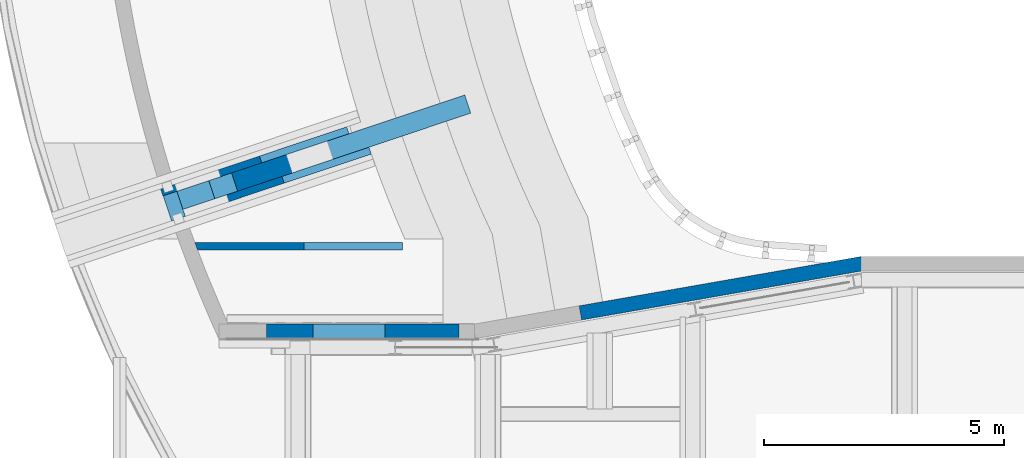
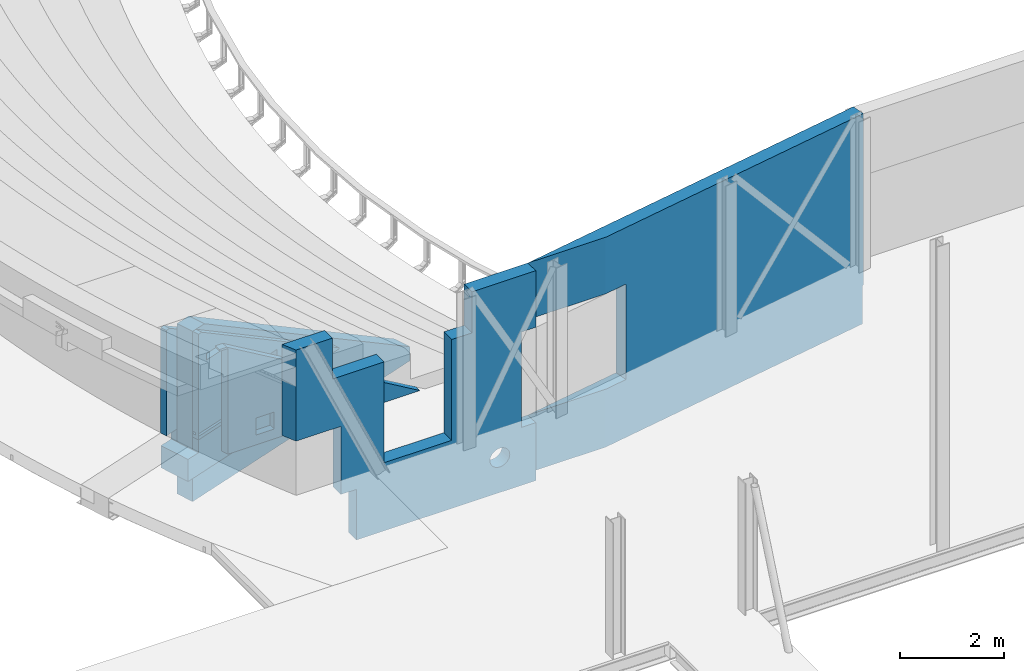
# One storey, part 65 of 68: 7 walls.
"""IFC2X3 building model written with IfcOpenShell, lengths in millimetres."""

import ifcopenshell
import ifcopenshell.guid

model = None  # the IFC model being written
_history = None  # IfcOwnerHistory: only IFC2X3 demands one
_inside = {}  # id of a spatial element -> (the spatial element, [elements in it])
_under = {}  # id of a project, library or spatial element -> (it, [spatial elements below it])
_declared = {}  # id of a project -> (the project, [libraries it declares])
_typed = {}  # id of a type object -> (the type object, [elements of that type])
_made_of = {}  # id of a material, layer set ... -> (it, [elements and type objects made of it])


def new_model(schema):
    """Start an empty IFC model of exactly this schema.

    Asked for "IFC4X3", IfcOpenShell would pick the latest addendum, in which some entities
    have other attributes; the version numbers below select the first issue.
    IFC2X3 requires an IfcOwnerHistory on every rooted entity: one is made here for all.
    """
    global model, _history
    if schema == "IFC4X3":
        model = ifcopenshell.file(schema_version=(4, 3, 0, 0))
    else:
        model = ifcopenshell.file(schema=schema)
    _inside.clear()
    _under.clear()
    _declared.clear()
    _typed.clear()
    _made_of.clear()
    _history = None
    if model.schema == "IFC2X3":
        org = make("IfcOrganization", Name="unknown")
        user = make(
            "IfcPersonAndOrganization",
            ThePerson=make("IfcPerson", FamilyName="unknown"),
            TheOrganization=org,
        )
        app = make(
            "IfcApplication",
            ApplicationDeveloper=org,
            Version="unknown",
            ApplicationFullName="unknown",
            ApplicationIdentifier="unknown",
        )
        _history = make(
            "IfcOwnerHistory",
            OwningUser=user,
            OwningApplication=app,
            ChangeAction="ADDED",
            CreationDate=0,
        )
    return model


def make(cls, **values):
    """One entity of the class cls with the attributes given. An attribute that is None is left unset."""
    return model.create_entity(
        cls, **{name: value for name, value in values.items() if value is not None}
    )


def entity(cls, *values):
    """Any entity or typed value of the class cls, its attributes in the order of the schema. None: left unset."""
    e = model.create_entity(cls)
    for i, value in enumerate(values):
        if value is not None:
            e[i] = value
    return e


def rooted(cls, **values):
    """An entity with a GlobalId (a new one), such as an element, a storey or a relation."""
    return make(cls, GlobalId=ifcopenshell.guid.new(), OwnerHistory=_history, **values)


def si_unit(unit_type, name, prefix=None):
    """IfcSIUnit, for example si_unit("LENGTHUNIT", "METRE", prefix="MILLI")."""
    return make("IfcSIUnit", UnitType=unit_type, Prefix=prefix, Name=name)


def converted_unit(unit_type, name, factor, base, dimensions=None, offset=None):
    """IfcConversionBasedUnit, such as the inch: factor (a typed value) times the base unit."""
    return make(
        "IfcConversionBasedUnit"
        if offset is None
        else "IfcConversionBasedUnitWithOffset",
        ConversionOffset=offset,
        Dimensions=None
        if dimensions is None
        else entity("IfcDimensionalExponents", *dimensions),
        UnitType=unit_type,
        Name=name,
        ConversionFactor=make(
            "IfcMeasureWithUnit", ValueComponent=factor, UnitComponent=base
        ),
    )


def derived_unit(unit_type, elements):
    """IfcDerivedUnit: a product of units, each with its exponent."""
    return make(
        "IfcDerivedUnit",
        Elements=[
            make("IfcDerivedUnitElement", Unit=unit, Exponent=power)
            for unit, power in elements
        ],
        UnitType=unit_type,
    )


def assignment(units):
    """IfcUnitAssignment: the units of a project."""
    return None if units is None else make("IfcUnitAssignment", Units=units)


def point(xyz):
    """IfcCartesianPoint."""
    return None if xyz is None else make("IfcCartesianPoint", Coordinates=xyz)


def direction(xyz):
    """IfcDirection."""
    return None if xyz is None else make("IfcDirection", DirectionRatios=xyz)


def frame(location, z_axis=None, x_axis=None):
    """IfcAxis2Placement3D, a coordinate frame: its origin and axes. An axis left out is left unset."""
    return make(
        "IfcAxis2Placement3D",
        Location=point(location),
        Axis=direction(z_axis),
        RefDirection=direction(x_axis),
    )


def origin():
    """The frame at (0, 0, 0) with its axes left unset."""
    return frame((0.0, 0.0, 0.0))


def place(relative_to, where):
    """IfcLocalPlacement: puts the frame where relative to a parent placement (None: the world)."""
    return make(
        "IfcLocalPlacement", PlacementRelTo=relative_to, RelativePlacement=where
    )


def context(
    kind, dimensions, precision=None, world=None, true_north=None, identifier=None
):
    """IfcGeometricRepresentationContext, for example the 3D "Model" context."""
    return make(
        "IfcGeometricRepresentationContext",
        ContextIdentifier=identifier,
        ContextType=kind,
        CoordinateSpaceDimension=dimensions,
        Precision=precision,
        WorldCoordinateSystem=world,
        TrueNorth=true_north,
    )


def subcontext(parent, identifier, kind, view, scale=None):
    """IfcGeometricRepresentationSubContext, for example "Body" below "Model"."""
    return make(
        "IfcGeometricRepresentationSubContext",
        ContextIdentifier=identifier,
        ContextType=kind,
        ParentContext=parent,
        TargetScale=scale,
        TargetView=view,
    )


def project(units=None, contexts=None):
    """IfcProject with its units and contexts."""
    return rooted(
        "IfcProject",
        Name="project",
        RepresentationContexts=contexts,
        UnitsInContext=assignment(units),
    )


def spatial(cls, under=None, at=None, **own):
    """A site, building, storey or space (cls), placed at a placement, below another one or the project."""
    s = rooted(cls, ObjectPlacement=at, **own)
    if under is not None:
        _under.setdefault(under.id(), (under, []))[1].append(s)
    return s


def faces_of(points, faces, orient=None, outer=None):
    """IfcFace entities. A face is a list of loops; a loop is a list of indices into points, from 0.

    orient and outer hold one flag for each loop. By default every Orientation is true, the
    first loop of a face is its IfcFaceOuterBound and the others are IfcFaceBound.
    """
    made = []
    for i, loops in enumerate(faces):
        bounds = []
        for j, loop in enumerate(loops):
            is_outer = j == 0 if outer is None else outer[i][j]
            bounds.append(
                make(
                    "IfcFaceOuterBound" if is_outer else "IfcFaceBound",
                    Bound=make("IfcPolyLoop", Polygon=[points[k] for k in loop]),
                    Orientation=True if orient is None else orient[i][j],
                )
            )
        made.append(make("IfcFace", Bounds=bounds))
    return made


def faceted_brep(points, faces, orient=None, outer=None, voids=None):
    """IfcFacetedBrep: a solid bounded by flat faces; with voids (closed shells), ...WithVoids."""
    shared = [point(p) for p in points]
    hull = make("IfcClosedShell", CfsFaces=faces_of(shared, faces, orient, outer))
    if voids is None:
        return make("IfcFacetedBrep", Outer=hull)
    return make(
        "IfcFacetedBrepWithVoids",
        Outer=hull,
        Voids=[
            make(cls, CfsFaces=faces_of(shared, fs, o, b)) for cls, fs, o, b in voids
        ],
    )


def shape(context_of_items, identifier, shape_type, items):
    """IfcShapeRepresentation: the items that make up one representation, for example the "Body"."""
    return make(
        "IfcShapeRepresentation",
        ContextOfItems=context_of_items,
        RepresentationIdentifier=identifier,
        RepresentationType=shape_type,
        Items=items,
    )


def material(Name=None, Category=None):
    """IfcMaterial."""
    return make("IfcMaterial", Name=Name, Category=Category)


def layer(
    of_material, thickness, ventilated=None, Name=None, Category=None, Priority=None
):
    """IfcMaterialLayer: one layer of a wall or slab, of a material (None: an air gap)."""
    return make(
        "IfcMaterialLayer",
        Material=of_material,
        LayerThickness=thickness,
        IsVentilated=ventilated,
        Name=Name,
        Category=Category,
        Priority=Priority,
    )


def layer_set(layers, Name=None):
    """IfcMaterialLayerSet."""
    return make("IfcMaterialLayerSet", MaterialLayers=layers, LayerSetName=Name)


def made_of(thing, what):
    """Note that an element or type object is made of a material, layer set ...; save() writes the relation."""
    if what is not None:
        _made_of.setdefault(what.id(), (what, []))[1].append(thing)
    return thing


def type_object(cls, material=None, **own):
    """A type object (cls), such as IfcWallType, which elements share."""
    return made_of(rooted(cls, **own), material)


def element(
    cls,
    number,
    at=None,
    inside=None,
    cuts=None,
    type_object=None,
    material=None,
    context=None,
    identifier="Body",
    shape_type=None,
    held_by="IfcProductDefinitionShape",
    body=None,
    shapes=None,
    **own,
):
    """One element of the class cls, such as IfcWall. Its Tag is "e" and its number.

    at: its placement. inside: the storey or other place that contains it. cuts: it is an
    opening in that element (IfcRelVoidsElement). A single representation is given by context,
    identifier, shape_type and body (its items); several are given by shapes. held_by: the class
    of the entity that holds the representations. save() writes the other relations.
    """
    e = rooted(cls, Tag="e%d" % number, ObjectPlacement=at, **own)
    if body is not None:
        shapes = [shape(context, identifier, shape_type, body)]
    if shapes is not None:
        e.Representation = make(held_by, Representations=shapes)
    if inside is not None:
        _inside.setdefault(inside.id(), (inside, []))[1].append(e)
    if cuts is not None:
        rooted(
            "IfcRelVoidsElement", RelatingBuildingElement=cuts, RelatedOpeningElement=e
        )
    if type_object is not None:
        _typed.setdefault(type_object.id(), (type_object, []))[1].append(e)
    return made_of(e, material)


def aggregate(whole, parts):
    """IfcRelAggregates: a whole, such as a stair, and the parts it consists of."""
    return rooted("IfcRelAggregates", RelatingObject=whole, RelatedObjects=parts)


def save(model, path):
    """Write the relations noted so far, then the file.

    IfcRelAggregates (storeys below a building ...), IfcRelContainedInSpatialStructure (elements
    in a storey), IfcRelDefinesByType, IfcRelAssociatesMaterial and IfcRelDeclares: one each for
    every whole, place, type object, material and project.
    """
    for whole, parts in _under.values():
        aggregate(whole, parts)
    for where, things in _inside.values():
        rooted(
            "IfcRelContainedInSpatialStructure",
            RelatedElements=things,
            RelatingStructure=where,
        )
    for kind, things in _typed.values():
        rooted("IfcRelDefinesByType", RelatedObjects=things, RelatingType=kind)
    for what, things in _made_of.values():
        rooted("IfcRelAssociatesMaterial", RelatedObjects=things, RelatingMaterial=what)
    for by, libraries in _declared.values():
        rooted("IfcRelDeclares", RelatingContext=by, RelatedDefinitions=libraries)
    model.write(path)


model = new_model("IFC2X3")

# Units and contexts
model_context = context("Model", 3, precision=0.01, world=origin(), true_north=direction((6.12303176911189e-17, 1.0)))
body_context = subcontext(model_context, "Body", "Model", "MODEL_VIEW")
ifc_project = project(units=[si_unit("LENGTHUNIT", "METRE", prefix="MILLI"), si_unit("AREAUNIT", "SQUARE_METRE", prefix="MILLI"), si_unit("VOLUMEUNIT", "CUBIC_METRE"), converted_unit("PLANEANGLEUNIT", "DEGREE", entity("IfcRatioMeasure", 0.0174532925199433), si_unit("PLANEANGLEUNIT", "RADIAN"), dimensions=[0, 0, 0, 0, 0, 0, 0]), si_unit("MASSUNIT", "GRAM", prefix="KILO"), derived_unit("MASSDENSITYUNIT", [(si_unit("MASSUNIT", "GRAM", prefix="KILO"), 1), (si_unit("LENGTHUNIT", "METRE"), -3)]), derived_unit("MOMENTOFINERTIAUNIT", [(si_unit("LENGTHUNIT", "METRE"), 4)]), si_unit("TIMEUNIT", "SECOND"), si_unit("FREQUENCYUNIT", "HERTZ"), si_unit("THERMODYNAMICTEMPERATUREUNIT", "DEGREE_CELSIUS"), derived_unit("THERMALTRANSMITTANCEUNIT", [(si_unit("MASSUNIT", "GRAM", prefix="KILO"), 1), (si_unit("THERMODYNAMICTEMPERATUREUNIT", "KELVIN"), -1), (si_unit("TIMEUNIT", "SECOND"), -3)]), derived_unit("VOLUMETRICFLOWRATEUNIT", [(si_unit("LENGTHUNIT", "METRE"), 3), (si_unit("TIMEUNIT", "SECOND"), -1)]), si_unit("ELECTRICCURRENTUNIT", "AMPERE"), si_unit("ELECTRICVOLTAGEUNIT", "VOLT"), si_unit("POWERUNIT", "WATT"), si_unit("FORCEUNIT", "NEWTON", prefix="KILO"), si_unit("ILLUMINANCEUNIT", "LUX"), si_unit("LUMINOUSFLUXUNIT", "LUMEN"), si_unit("LUMINOUSINTENSITYUNIT", "CANDELA"), derived_unit("USERDEFINED", [(si_unit("MASSUNIT", "GRAM", prefix="KILO"), -1), (si_unit("LENGTHUNIT", "METRE"), -2), (si_unit("TIMEUNIT", "SECOND"), 3), (si_unit("LUMINOUSFLUXUNIT", "LUMEN"), 1)]), derived_unit("LINEARVELOCITYUNIT", [(si_unit("LENGTHUNIT", "METRE"), 1), (si_unit("TIMEUNIT", "SECOND"), -1)]), si_unit("PRESSUREUNIT", "PASCAL"), derived_unit("USERDEFINED", [(si_unit("LENGTHUNIT", "METRE"), -2), (si_unit("MASSUNIT", "GRAM", prefix="KILO"), 1), (si_unit("TIMEUNIT", "SECOND"), -2)]), derived_unit("LINEARFORCEUNIT", [(si_unit("MASSUNIT", "GRAM", prefix="KILO"), 1), (si_unit("LENGTHUNIT", "METRE"), 1), (si_unit("TIMEUNIT", "SECOND"), -2), (si_unit("LENGTHUNIT", "METRE"), -1)]), derived_unit("PLANARFORCEUNIT", [(si_unit("MASSUNIT", "GRAM", prefix="KILO"), 1), (si_unit("LENGTHUNIT", "METRE"), 1), (si_unit("TIMEUNIT", "SECOND"), -2), (si_unit("LENGTHUNIT", "METRE"), -2)])], contexts=[model_context])

# Site, building, storey
site_placement = place(None, origin())
site = spatial("IfcSite", under=ifc_project, at=site_placement, Name="Theater aan de Parade", CompositionType="ELEMENT")
building_placement = place(site_placement, origin())
building = spatial("IfcBuilding", under=site, at=building_placement, Name="Theater aan de Parade", CompositionType="ELEMENT")
storey_placement = place(building_placement, frame((0.0, 0.0, 8750.0)))
storey = spatial("IfcBuildingStorey", under=building, at=storey_placement, Name="02 tweede verdieping", CompositionType="ELEMENT", Elevation=8750.0)

# Walls
ifc_material_1 = material(Name="00_PBT_MAT_beton t.p.g.")
ifc_layer_1 = layer(ifc_material_1, 300.0)
ifc_layer_set_1 = layer_set([ifc_layer_1], Name="Basic Wall:28_PBT_WA_beton t.p.g._d=300_bestaand")
wall_type_1 = type_object("IfcWallType", Name="Basic Wall:28_PBT_WA_beton t.p.g._d=300_bestaand", PredefinedType="STANDARD", material=ifc_layer_set_1)
wall_1_placement = place(storey_placement, frame((51610.1427640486, 20782.2454299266, -1600.0), z_axis=(0.0, 0.0, 1.0), x_axis=(0.985030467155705, 0.172380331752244, 0.0)))
element("IfcWall", 1, at=wall_1_placement, inside=storey, type_object=wall_type_1, Name="Basic Wall:28_PBT_WA_beton t.p.g._d=300_bestaand", ObjectType="Basic Wall:28_PBT_WA_beton t.p.g._d=300_bestaand", context=body_context, shape_type="Brep", body=[
    faceted_brep([(8179.58746028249, -150.0, 4930.0), (8153.53541706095, -150.0, 4930.0), (1714.28571428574, -150.0, 4930.0), (1714.28571428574, -150.0, 3600.0), (2222.77596071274, -150.0, 3600.0), (2222.77596071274, -150.0, 1360.0), (1714.28571428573, -150.0, 1360.0), (1714.28571428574, -150.0, 160.0), (1714.28571428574, -150.0, 0.0), (8153.53541706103, -150.0, 0.0), (8153.53541706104, -150.0, 900.0), (8179.58746028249, -150.0, 900.0), (8179.58746028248, 150.0, 0.0), (1849.7719874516, 150.0, 0.0), (1536.57900972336, 150.0, 0.0), (1315.0506723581, 150.0, 0.0), (1258.39159230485, 150.0, 0.0), (0.0, 150.0, 0.0), (0.0, 150.0, 736.803285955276), (0.0, 150.0, 889.609411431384), (0.0, 150.0, 1360.0), (121.551589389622, 150.0, 1360.0), (698.175827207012, 150.0, 1360.0), (2222.77596071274, 150.0, 1360.0), (2222.77596071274, 150.0, 3600.0), (0.0, 150.0, 3600.0), (0.0, 150.0, 4930.0), (8179.58746028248, 150.0, 4930.0), (8179.58746028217, 150.0, 900.0), (8127.87336075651, -145.509140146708, 0.0), (8127.87336075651, -145.509140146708, 900.0), (1490.9195970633, -110.910929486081, 0.0), (1275.97396954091, -73.2954446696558, 0.0), (1258.39159230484, -70.2185286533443, 0.0), (12.8310281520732, 147.754570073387, 0.0), (12.8310281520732, 147.754570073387, 4930.0), (235.230897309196, 108.834592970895, 4930.0), (12.8310281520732, 147.754570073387, 3600.0), (12.8310281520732, 147.754570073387, 1360.0), (117.93968649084, 129.360554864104, 1360.0), (698.175827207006, 27.8192302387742, 1360.0)], [[[0, 1, 2, 3, 4, 5, 6, 7, 8, 9, 10, 11]], [[12, 13, 14, 15, 16, 17, 18, 19, 20, 21, 22, 23, 24, 25, 26, 27, 28]], [[29, 30, 10, 9]], [[17, 16, 15, 14, 13, 12, 29, 9, 8, 31, 32, 33, 34]], [[27, 0, 11, 28]], [[2, 1, 0, 27, 26, 35, 36]], [[4, 3, 37, 25, 24]], [[5, 4, 24, 23]], [[6, 5, 23, 22, 21, 20, 38, 39, 40]], [[3, 2, 36, 35, 26, 25, 37]], [[6, 40, 39, 38, 20, 19, 18, 17, 34, 33, 32, 31, 8, 7]], [[30, 28, 11, 10]], [[28, 30, 29, 12]]]),
])
wall_2_placement = place(storey_placement, frame((46137.3642218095, 20780.0, -1600.0)))
element("IfcWall", 2, at=wall_2_placement, inside=storey, type_object=wall_type_1, Name="Basic Wall:28_PBT_WA_beton t.p.g._d=300_bestaand", ObjectType="Basic Wall:28_PBT_WA_beton t.p.g._d=300_bestaand", context=body_context, shape_type="Brep", body=[
    faceted_brep([(1473.62241248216, -150.0, 1190.0), (1473.62241248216, -150.0, 0.0), (2092.67103672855, -150.0, 1600.0), (1131.11013754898, -150.0, 2790.0), (1131.11013754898, -150.0, 1190.0), (3592.67103673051, -150.0, 1600.0), (4464.73002916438, -150.0, 724.845577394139), (4490.94025395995, -150.0, 683.13224359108), (4525.77542369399, -150.0, 648.297073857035), (4567.48875749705, -150.0, 622.086849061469), (5459.94751408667, -150.0, 0.0), (4613.98857463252, -150.0, 605.81585932), (4662.94318010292, -150.0, 600.300000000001), (4711.89778557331, -150.0, 605.81585932), (4758.39760270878, -150.0, 622.08684906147), (4800.11093651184, -150.0, 648.297073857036), (4834.94610624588, -150.0, 683.132243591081), (5459.94751408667, -150.0, 729.394088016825), (4861.15633104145, -150.0, 724.845577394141), (4877.42732078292, -150.0, 771.345394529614), (4882.94318010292, -150.0, 820.300000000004), (5459.94751408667, -150.0, 912.462620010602), (4877.42732078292, -150.0, 869.254605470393), (4861.15633104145, -150.0, 915.754422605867), (5137.63577819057, -150.0, 1360.0), (5459.94751408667, -150.0, 1360.0), (4613.98857463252, -150.0, 1034.78414068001), (4662.94318010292, -150.0, 1040.30000000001), (4711.89778557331, -150.0, 1034.78414068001), (4758.39760270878, -150.0, 1018.51315093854), (4800.11093651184, -150.0, 992.302926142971), (4834.94610624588, -150.0, 957.467756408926), (5137.63577819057, -150.0, 3600.0), (4042.67103673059, -150.0, 3967.0), (5459.94751408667, -150.0, 4730.0), (5459.94751408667, -150.0, 3600.0), (4042.67103673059, -150.0, 4730.0), (4042.67103673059, -150.0, 4930.0), (5459.94751408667, -150.0, 4930.0), (3592.67103673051, -150.0, 3967.0), (4448.45903942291, -150.0, 771.345394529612), (4442.94318010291, -150.0, 820.300000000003), (4448.45903942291, -150.0, 869.254605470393), (4464.73002916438, -150.0, 915.754422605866), (4490.94025395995, -150.0, 957.467756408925), (4525.77542369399, -150.0, 992.302926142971), (4567.48875749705, -150.0, 1018.51315093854), (2092.67103672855, -150.0, 3967.0), (942.671036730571, -150.0, 3967.0), (134.367271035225, -150.0, 2790.0), (134.367271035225, -150.0, 4070.0), (134.367271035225, -150.0, 4260.0), (942.671036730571, -150.0, 4530.0), (134.367271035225, -150.0, 4530.0), (942.671036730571, -150.0, 4740.0), (134.367271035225, -150.0, 4740.0), (885.727199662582, -150.0, 4930.0), (942.671036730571, -150.0, 4930.0), (134.367271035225, -150.0, 4860.0), (134.367271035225, -150.0, 4930.0), (5459.94751408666, 150.0, 0.0), (5446.92149247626, 150.0, 0.0), (5459.94751408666, 150.0, 729.39408801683), (4834.94610624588, 150.0, 683.132243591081), (4800.11093651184, 150.0, 648.297073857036), (4758.39760270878, 150.0, 622.08684906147), (4711.89778557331, 150.0, 605.81585932), (4662.94318010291, 150.0, 600.300000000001), (4613.98857463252, 150.0, 605.81585932), (4567.48875749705, 150.0, 622.086849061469), (1473.62241248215, 150.0, 0.0), (4525.77542369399, 150.0, 648.297073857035), (4490.94025395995, 150.0, 683.13224359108), (4464.73002916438, 150.0, 724.845577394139), (3592.67103673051, 150.0, 1600.0), (2092.67103672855, 150.0, 1600.0), (1473.62241248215, 150.0, 1190.0), (1131.11013754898, 150.0, 2790.0), (1131.11013754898, 150.0, 1190.0), (2092.67103672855, 150.0, 3967.0), (942.67103673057, 150.0, 3967.0), (134.150097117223, 150.0, 2790.0), (0.0, 150.0, 4000.0), (0.0, 150.0, 2790.0), (0.0, 150.0, 4070.0), (0.0, 150.0, 4260.0), (0.0, 150.0, 4530.0), (942.67103673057, 150.0, 4930.0), (0.0, 150.0, 4740.0), (0.0, 150.0, 4860.0), (0.0, 150.0, 4930.0), (4448.45903942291, 150.0, 771.345394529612), (4442.94318010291, 150.0, 820.300000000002), (4448.45903942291, 150.0, 869.254605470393), (4464.73002916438, 150.0, 915.754422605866), (4490.94025395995, 150.0, 957.467756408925), (4525.77542369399, 150.0, 992.302926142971), (4567.48875749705, 150.0, 1018.51315093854), (4613.98857463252, 150.0, 1034.78414068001), (5137.63577819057, 150.0, 1360.0), (5137.63577819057, 150.0, 3600.0), (4042.67103673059, 150.0, 3967.0), (3592.67103673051, 150.0, 3967.0), (5459.94751408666, 150.0, 4730.0), (4042.67103673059, 150.0, 4930.0), (5446.92149247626, 150.0, 4930.0), (5459.94751408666, 150.0, 4930.0), (5446.92149247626, 150.0, 3600.0), (5459.94751408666, 150.0, 3600.0), (4662.94318010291, 150.0, 1040.30000000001), (4711.89778557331, 150.0, 1034.78414068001), (4758.39760270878, 150.0, 1018.51315093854), (4800.11093651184, 150.0, 992.302926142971), (4834.94610624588, 150.0, 957.467756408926), (4861.15633104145, 150.0, 915.754422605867), (5459.94751408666, 150.0, 882.068079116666), (5446.92149247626, 150.0, 1360.0), (5459.94751408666, 150.0, 1360.0), (4882.94318010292, 150.0, 820.300000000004), (4877.42732078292, 150.0, 869.254605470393), (4861.15633104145, 150.0, 724.845577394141), (4877.42732078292, 150.0, 771.345394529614), (66.7518676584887, -0.193384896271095, 4930.0), (134.2586823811, -149.761246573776, 2790.0), (134.150094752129, -149.522489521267, 2790.0), (66.6446561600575, 0.0459877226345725, 2790.0), (60.7981036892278, 13.1086035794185, 3860.08961826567)], [[[0, 1, 2]], [[0, 2, 3]], [[4, 0, 3]], [[1, 5, 2]], [[6, 5, 1]], [[6, 1, 7]], [[1, 8, 7]], [[8, 1, 9]], [[1, 10, 9]], [[11, 9, 10]], [[12, 11, 10]], [[13, 12, 10]], [[13, 10, 14]], [[15, 14, 10]], [[16, 15, 10]], [[10, 17, 16]], [[18, 16, 17]], [[18, 17, 19]], [[20, 19, 17]], [[17, 21, 20]], [[20, 21, 22]], [[22, 21, 23]], [[24, 23, 21]], [[21, 25, 24]], [[26, 24, 5]], [[26, 27, 24]], [[27, 28, 24]], [[29, 24, 28]], [[29, 30, 24]], [[31, 23, 24]], [[32, 5, 24]], [[24, 30, 31]], [[32, 33, 5]], [[34, 33, 32]], [[32, 35, 34]], [[36, 33, 34]], [[34, 37, 36]], [[38, 37, 34]], [[33, 39, 5]], [[40, 5, 6]], [[40, 41, 5]], [[42, 5, 41]], [[5, 42, 43]], [[43, 44, 5]], [[44, 45, 5]], [[46, 5, 45]], [[5, 46, 26]], [[2, 47, 3]], [[48, 3, 47]], [[48, 49, 3]], [[50, 49, 48]], [[51, 50, 48]], [[48, 52, 51]], [[52, 53, 51]], [[52, 54, 53]], [[54, 55, 53]], [[54, 56, 55]], [[54, 57, 56]], [[55, 56, 58]], [[59, 58, 56]], [[60, 61, 62]], [[62, 61, 63]], [[63, 61, 64]], [[65, 64, 61]], [[66, 65, 61]], [[66, 61, 67]], [[68, 67, 61]], [[68, 61, 69]], [[61, 70, 69]], [[71, 69, 70]], [[72, 71, 70]], [[73, 72, 70]], [[73, 70, 74]], [[74, 70, 75]], [[70, 76, 75]], [[75, 76, 77]], [[77, 76, 78]], [[75, 77, 79]], [[79, 77, 80]], [[80, 77, 81]], [[80, 81, 82]], [[83, 82, 81]], [[82, 84, 80]], [[85, 80, 84]], [[86, 80, 85]], [[86, 87, 80]], [[87, 86, 88]], [[89, 87, 88]], [[90, 87, 89]], [[74, 91, 73]], [[91, 74, 92]], [[93, 92, 74]], [[93, 74, 94]], [[95, 94, 74]], [[96, 95, 74]], [[97, 96, 74]], [[98, 97, 74]], [[74, 99, 98]], [[100, 99, 74]], [[74, 101, 100]], [[101, 74, 102]], [[103, 100, 101]], [[104, 103, 101]], [[105, 103, 104]], [[106, 103, 105]], [[107, 100, 103]], [[107, 103, 108]], [[109, 98, 99]], [[99, 110, 109]], [[110, 99, 111]], [[112, 111, 99]], [[113, 112, 99]], [[114, 113, 99]], [[114, 99, 115]], [[99, 116, 115]], [[115, 116, 117]], [[115, 62, 118]], [[115, 118, 119]], [[115, 119, 114]], [[63, 120, 62]], [[121, 62, 120]], [[62, 121, 118]], [[10, 1, 70, 61, 60]], [[17, 10, 60, 62, 115, 117, 25, 21]], [[34, 35, 108, 103, 106, 38]], [[37, 38, 106, 105, 104]], [[56, 57, 87, 90, 122, 59]], [[24, 25, 117, 116, 99]], [[32, 24, 99, 100]], [[35, 32, 100, 107, 108]], [[2, 5, 74, 75]], [[47, 2, 75, 79]], [[39, 33, 101, 102]], [[48, 47, 79, 80]], [[5, 39, 102, 74]], [[0, 4, 78, 76]], [[1, 0, 76, 70]], [[81, 77, 3, 49, 123, 124, 125, 83]], [[4, 3, 77, 78]], [[84, 82, 83, 126, 86, 85]], [[125, 126, 83]], [[122, 90, 89, 88, 86]], [[126, 122, 86]], [[124, 123, 50]], [[126, 50, 51]], [[49, 50, 123]], [[126, 51, 122]], [[59, 122, 51, 53, 55, 58]], [[126, 125, 124]], [[126, 124, 50]], [[57, 54, 52, 48, 80, 87]], [[18, 19, 121, 120]], [[18, 120, 63, 16]], [[65, 66, 13, 14]], [[14, 15, 64, 65]], [[15, 16, 63, 64]], [[12, 13, 66, 67]], [[118, 121, 19, 20]], [[9, 11, 68, 69]], [[9, 69, 71, 8]], [[73, 91, 40, 6]], [[6, 7, 72, 73]], [[7, 8, 71, 72]], [[41, 40, 91, 92]], [[68, 11, 12, 67]], [[93, 42, 41, 92]], [[97, 98, 26, 46]], [[46, 45, 96, 97]], [[95, 96, 45, 44]], [[27, 26, 98, 109]], [[95, 44, 43, 94]], [[93, 94, 43, 42]], [[29, 28, 110, 111]], [[29, 111, 112, 30]], [[114, 119, 22, 23]], [[23, 31, 113, 114]], [[31, 30, 112, 113]], [[20, 22, 119, 118]], [[110, 28, 27, 109]], [[36, 37, 104, 101, 33]]]),
])
ifc_layer_2 = layer(ifc_material_1, 400.0)
ifc_layer_set_2 = layer_set([ifc_layer_2], Name="Basic Wall:28_PBT_WA_beton t.p.g._d=400_bestaand")
wall_type_2 = type_object("IfcWallType", Name="Basic Wall:28_PBT_WA_beton t.p.g._d=400_bestaand", PredefinedType="STANDARD", material=ifc_layer_set_2)
wall_3_placement = place(storey_placement, frame((45462.8713455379, 23508.7544535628, -1600.0), z_axis=(0.0, 0.0, 1.0), x_axis=(0.94832330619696, 0.317305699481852, 0.0)))
element("IfcWall", 3, at=wall_3_placement, inside=storey, type_object=wall_type_2, Name="Basic Wall:28_PBT_WA_beton t.p.g._d=400_bestaand", ObjectType="Basic Wall:28_PBT_WA_beton t.p.g._d=400_bestaand", context=body_context, shape_type="Brep", body=[
    faceted_brep([(945.957196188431, -200.0, 0.0), (0.0, -200.0, 700.0), (0.0, -200.0, 0.0), (1199.53262778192, -200.0, 700.0), (2399.53262778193, -200.0, 700.0), (3299.53262778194, -200.0, 700.0), (6318.82010168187, -200.0, 0.0), (6318.82010168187, -200.0, 325.979381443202), (3299.53262778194, -200.0, 1300.0), (2276.60175154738, -200.0, 2450.0), (342.51930076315, -200.0, 4000.0), (685.567653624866, -200.0, 3425.0), (235.56765362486, -200.0, 3425.0), (0.0, -200.0, 4000.0), (235.56765362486, -200.0, 3275.0), (0.0, -200.0, 1660.0), (699.532627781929, -200.0, 2150.0), (699.532627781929, -200.0, 1750.0), (0.0, -200.0, 1600.0), (0.0, -200.0, 1520.0), (699.532627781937, -200.0, 1200.0), (0.0, -200.0, 1220.0), (0.0, -200.0, 850.0), (699.532627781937, -200.0, 850.0), (1099.53262778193, -200.0, 1750.0), (1199.53262778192, -200.0, 1200.0), (1576.60175154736, -200.0, 1520.0), (1099.53262778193, -200.0, 2150.0), (685.567653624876, -200.0, 3275.0), (1576.60175154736, -200.0, 2450.0), (2276.60175154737, -200.0, 1520.0), (2399.53262778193, -200.0, 1300.0), (6318.82010168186, 200.0, 325.979381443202), (6318.82010168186, 200.0, 0.0), (3299.53262778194, 200.0, 700.0), (3299.53262778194, 200.0, 1300.0), (2276.60175154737, 200.0, 2450.0), (342.519300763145, 200.0, 4000.0), (945.957196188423, 200.0, 0.0), (2399.53262778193, 200.0, 700.0), (1199.53262778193, 200.0, 700.0), (0.335443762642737, 200.0, 700.0), (0.335443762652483, 200.0, 0.0), (1576.60175154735, 200.0, 1520.0), (1199.53262778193, 200.0, 1200.0), (1099.53262778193, 200.0, 1750.0), (699.532627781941, 200.0, 1200.0), (699.532627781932, 200.0, 1750.0), (0.335443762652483, 200.0, 1520.0), (0.335443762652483, 200.0, 1220.0), (0.335443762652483, 200.0, 850.0), (699.532627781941, 200.0, 850.0), (0.335443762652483, 200.0, 1600.0), (0.3354437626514, 200.0, 1660.0), (699.532627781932, 200.0, 2150.0), (235.567653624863, 200.0, 3275.0), (0.335443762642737, 200.0, 4000.0), (235.567653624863, 200.0, 3425.0), (685.567653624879, 200.0, 3275.0), (1099.53262778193, 200.0, 2150.0), (1576.60175154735, 200.0, 2450.0), (685.567653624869, 200.0, 3425.0), (2399.53262778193, 200.0, 1300.0), (2276.60175154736, 200.0, 1520.0), (-0.540251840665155, 0.000593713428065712, 0.0), (-0.540251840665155, 0.000593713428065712, 700.0), (-0.540251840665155, 0.000593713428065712, 850.0), (-0.540251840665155, 0.000593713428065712, 4000.0), (-0.544898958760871, -6.40753529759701, 2425.0)], [[[0, 1, 2]], [[3, 1, 0]], [[3, 0, 4]], [[0, 5, 4]], [[6, 5, 0]], [[6, 7, 5]], [[5, 7, 8]], [[8, 7, 9]], [[7, 10, 9]], [[10, 11, 9]], [[10, 12, 11]], [[13, 12, 10]], [[12, 13, 14]], [[15, 14, 13]], [[16, 14, 15]], [[17, 16, 15]], [[15, 18, 17]], [[17, 18, 19]], [[19, 20, 17]], [[20, 19, 21]], [[21, 22, 20]], [[20, 22, 23]], [[20, 24, 17]], [[25, 24, 20]], [[3, 26, 25]], [[26, 24, 25]], [[24, 26, 27]], [[16, 28, 14]], [[27, 28, 16]], [[11, 28, 29]], [[27, 29, 28]], [[26, 29, 27]], [[29, 9, 11]], [[30, 8, 9]], [[30, 26, 31]], [[31, 8, 30]], [[4, 26, 3]], [[26, 4, 31]], [[32, 33, 34]], [[32, 34, 35]], [[35, 36, 32]], [[32, 36, 37]], [[33, 38, 34]], [[38, 39, 34]], [[38, 40, 39]], [[38, 41, 40]], [[38, 42, 41]], [[40, 43, 39]], [[44, 43, 40]], [[45, 43, 44]], [[46, 45, 44]], [[46, 47, 45]], [[46, 48, 47]], [[48, 46, 49]], [[50, 49, 46]], [[46, 51, 50]], [[47, 48, 52]], [[47, 52, 53]], [[47, 53, 54]], [[55, 54, 53]], [[55, 53, 56]], [[57, 56, 37]], [[56, 57, 55]], [[54, 55, 58]], [[58, 59, 54]], [[60, 59, 58]], [[58, 61, 60]], [[36, 60, 61]], [[61, 37, 36]], [[57, 37, 61]], [[43, 59, 60]], [[43, 45, 59]], [[62, 39, 43]], [[62, 43, 63]], [[35, 63, 36]], [[35, 62, 63]], [[0, 2, 64, 42, 38, 33, 6]], [[7, 6, 33, 32]], [[10, 7, 32, 37]], [[16, 17, 47, 54]], [[20, 23, 51, 46]], [[27, 16, 54, 59]], [[24, 27, 59, 45]], [[17, 24, 45, 47]], [[3, 25, 44, 40]], [[1, 3, 40, 41, 65]], [[4, 5, 34, 39]], [[25, 20, 46, 44]], [[5, 8, 35, 34]], [[31, 4, 39, 62]], [[8, 31, 62, 35]], [[23, 22, 66, 50, 51]], [[67, 68, 13]], [[15, 13, 68, 18]], [[19, 18, 66, 22, 21]], [[1, 65, 64, 2]], [[68, 66, 18]], [[68, 67, 56]], [[53, 52, 48, 49, 50, 66]], [[64, 65, 41, 42]], [[66, 68, 53]], [[68, 56, 53]], [[13, 10, 37, 56, 67]], [[14, 28, 58, 55]], [[12, 14, 55, 57]], [[11, 12, 57, 61]], [[28, 11, 61, 58]], [[30, 9, 36, 63]], [[26, 30, 63, 43]], [[29, 26, 43, 60]], [[9, 29, 60, 36]]]),
])
ifc_material_2 = material(Name="00_PBT_MAT_beton t.p.g._C30/37")
ifc_layer_3 = layer(ifc_material_2, 150.0)
ifc_layer_set_3 = layer_set([ifc_layer_3], Name="Basic Wall:28_PBT_WA_beton t.p.g._d=150_C30/37")
wall_type_3 = type_object("IfcWallType", Name="Basic Wall:28_PBT_WA_beton t.p.g._d=150_C30/37", PredefinedType="STANDARD", material=ifc_layer_set_3)
wall_4_placement = place(storey_placement, frame((49423.7702363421, 24544.0720364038, -80.0), z_axis=(0.0, 0.0, 1.0), x_axis=(-0.948323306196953, -0.317305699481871, 0.0)))
element("IfcWall", 4, at=wall_4_placement, inside=storey, type_object=wall_type_3, Name="Basic Wall:28_PBT_WA_beton t.p.g._d=150_C30/37", ObjectType="Basic Wall:28_PBT_WA_beton t.p.g._d=150_C30/37", context=body_context, shape_type="Brep", body=[
    faceted_brep([(2885.19227366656, -75.0, 0.0), (2508.12314990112, -75.0, 0.0), (2508.12314990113, 75.0, 0.0), (2885.19227366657, 75.0, 0.0), (4084.15724782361, 75.0, 0.0), (4084.15724782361, -75.0, 0.0), (1808.12314990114, -75.0, 0.0), (0.0, -75.0, 0.0), (0.0, 75.0, 0.0), (1808.12314990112, 75.0, 0.0), (0.0, -75.0, 23.2693675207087), (1808.12314990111, -75.0, 930.0), (3988.19325773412, -75.0, 2480.0), (3399.15724782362, -75.0, 1905.0), (2508.12314990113, -75.0, 930.0), (3399.15724782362, -75.0, 1755.0), (2985.19227366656, -75.0, 630.0), (2985.19227366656, -75.0, 230.0), (3123.97459083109, -75.0, 80.0), (4084.15724782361, -75.0, 80.0), (3123.97459083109, -75.0, 140.0), (3385.19227366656, -75.0, 230.0), (4084.15724782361, -75.0, 140.0), (3385.19227366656, -75.0, 630.0), (3849.15724782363, -75.0, 1755.0), (4084.1572478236, -75.0, 2480.0), (3849.15724782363, -75.0, 1905.0), (4083.39045516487, 75.0, 80.0), (4083.39045516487, 75.0, 140.0), (3123.97459083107, 75.0, 80.0), (4084.15724782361, 75.0, 2480.0), (2985.19227366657, 75.0, 230.0), (2985.19227366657, 75.0, 630.0), (2508.12314990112, 75.0, 930.0), (3399.15724782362, 75.0, 1755.0), (3399.15724782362, 75.0, 1905.0), (1808.12314990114, 75.0, 930.0), (3988.19325773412, 75.0, 2480.0), (0.0, 75.0, 23.2693675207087), (3849.15724782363, 75.0, 1905.0), (3385.19227366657, 75.0, 630.0), (3849.15724782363, 75.0, 1755.0), (3385.19227366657, 75.0, 230.0), (3123.97459083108, 75.0, 140.0), (4084.15724782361, -1.38173845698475e-09, 140.0), (4084.15724782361, 0.0, 80.0), (4083.79874359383, 37.5001168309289, 80.0), (4083.79874359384, 37.5001168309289, 140.0)], [[[0, 1, 2, 3, 4, 5]], [[6, 7, 8, 9]], [[10, 7, 6]], [[10, 6, 11]], [[10, 11, 12]], [[13, 12, 11]], [[11, 14, 13]], [[13, 14, 15]], [[14, 16, 15]], [[1, 16, 14]], [[1, 17, 16]], [[17, 1, 0]], [[0, 18, 17]], [[0, 5, 18]], [[18, 5, 19]], [[17, 18, 20]], [[21, 17, 20]], [[22, 21, 20]], [[23, 21, 22]], [[23, 22, 24]], [[24, 22, 25]], [[26, 25, 12]], [[25, 26, 24]], [[24, 15, 23]], [[15, 16, 23]], [[26, 12, 13]], [[4, 27, 28]], [[4, 29, 27]], [[4, 28, 30]], [[3, 29, 4]], [[29, 3, 31]], [[31, 3, 2]], [[2, 32, 31]], [[2, 33, 32]], [[32, 33, 34]], [[33, 35, 34]], [[33, 36, 35]], [[37, 35, 36]], [[38, 37, 36]], [[38, 36, 9]], [[9, 8, 38]], [[30, 39, 37]], [[37, 39, 35]], [[34, 40, 32]], [[34, 41, 40]], [[28, 40, 41]], [[39, 30, 41]], [[30, 28, 41]], [[28, 42, 40]], [[29, 31, 43]], [[31, 42, 43]], [[43, 42, 28]], [[25, 22, 44, 45, 19, 5, 4, 30]], [[12, 25, 30, 37]], [[7, 10, 38, 8]], [[10, 12, 37, 38]], [[19, 45, 46, 27, 29, 18]], [[44, 22, 20, 43, 28, 47]], [[29, 43, 20, 18]], [[27, 46, 47, 28]], [[45, 44, 47, 46]], [[24, 26, 39, 41]], [[24, 41, 34, 15]], [[13, 15, 34, 35]], [[13, 35, 39, 26]], [[14, 33, 2, 1]], [[11, 6, 9, 36]], [[11, 36, 33, 14]], [[21, 23, 40, 42]], [[17, 21, 42, 31]], [[16, 17, 31, 32]], [[23, 16, 32, 40]]]),
])
wall_5_placement = place(storey_placement, frame((48957.051737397, 24967.8806232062, -80.0), z_axis=(0.0, 0.0, 1.0), x_axis=(-0.948323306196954, -0.31730569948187, 0.0)))
element("IfcWall", 5, at=wall_5_placement, inside=storey, type_object=wall_type_3, Name="Basic Wall:28_PBT_WA_beton t.p.g._d=150_C30/37", ObjectType="Basic Wall:28_PBT_WA_beton t.p.g._d=150_C30/37", context=body_context, shape_type="Brep", body=[
    faceted_brep([(4084.65919412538, 75.0, 0.0), (4084.65919412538, -75.0, 0.0), (4077.14210826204, -75.0, 0.0), (3776.03409792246, -75.0, 0.0), (2577.06912376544, -75.0, 0.0), (2200.0, -75.0, 0.0), (2200.0, 75.0, 0.0), (2577.06912376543, 75.0, 0.0), (3776.03409792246, 75.0, 0.0), (1500.0, -75.0, 0.0), (0.0, -75.0, 0.0), (0.0, 75.0, 0.0), (1500.0, 75.0, 0.0), (0.0, -75.0, 22.6736254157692), (1500.0, -75.0, 930.0), (3989.15644950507, -75.0, 2480.0), (3091.0340979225, -75.0, 1905.0), (2200.0, -75.0, 930.0), (3091.03409792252, -75.0, 1755.0), (2677.06912376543, -75.0, 630.0), (2677.06912376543, -75.0, 230.0), (2815.85144092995, -75.0, 80.0), (3774.68024833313, -75.0, 80.0), (3774.68024833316, -75.0, 140.0), (3541.0340979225, -75.0, 1755.0), (4084.65919412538, -75.0, 2480.0), (3541.03409792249, -75.0, 1905.0), (3077.06912376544, -75.0, 630.0), (3077.06912376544, -75.0, 230.0), (2815.85144092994, -75.0, 140.0), (3776.26630778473, 75.0, 80.0), (3776.26630778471, 75.0, 140.0), (3541.03409792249, 75.0, 1755.0), (4084.65919412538, 75.0, 2480.0), (2815.85144092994, 75.0, 80.0), (2677.06912376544, 75.0, 230.0), (2677.06912376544, 75.0, 630.0), (2200.0, 75.0, 930.0), (3091.0340979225, 75.0, 1755.0), (3091.03409792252, 75.0, 1905.0), (1500.0, 75.0, 930.0), (3989.15644950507, 75.0, 2480.0), (0.0, 75.0, 22.6736254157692), (3541.03409792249, 75.0, 1905.0), (3077.06912376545, 75.0, 630.0), (3077.06912376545, 75.0, 230.0), (2815.85144092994, 75.0, 140.0), (3775.57284644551, -0.000568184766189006, 80.0), (3775.57284644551, -0.000568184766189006, 140.0)], [[[0, 1, 2, 3, 4, 5, 6, 7, 8]], [[9, 10, 11, 12]], [[10, 9, 13]], [[14, 13, 9]], [[13, 14, 15]], [[16, 15, 14]], [[14, 17, 16]], [[16, 17, 18]], [[18, 17, 19]], [[5, 19, 17]], [[5, 20, 19]], [[20, 5, 4]], [[4, 21, 20]], [[21, 4, 3]], [[21, 3, 22]], [[2, 22, 3]], [[23, 22, 2]], [[2, 1, 23]], [[23, 1, 24]], [[24, 1, 25]], [[26, 25, 15]], [[25, 26, 24]], [[23, 24, 27]], [[18, 27, 24]], [[18, 19, 27]], [[28, 23, 27]], [[29, 28, 20]], [[29, 23, 28]], [[21, 29, 20]], [[26, 15, 16]], [[0, 30, 31]], [[30, 0, 8]], [[0, 31, 32]], [[33, 0, 32]], [[30, 8, 34]], [[7, 34, 8]], [[35, 34, 7]], [[6, 35, 7]], [[6, 36, 35]], [[6, 37, 36]], [[37, 38, 36]], [[37, 39, 38]], [[37, 40, 39]], [[41, 39, 40]], [[42, 41, 40]], [[40, 12, 42]], [[12, 11, 42]], [[33, 43, 41]], [[41, 43, 39]], [[44, 38, 32]], [[36, 38, 44]], [[32, 31, 44]], [[45, 44, 31]], [[45, 46, 35]], [[46, 34, 35]], [[45, 31, 46]], [[43, 33, 32]], [[25, 1, 0, 33]], [[15, 25, 33, 41]], [[10, 13, 42, 11]], [[13, 15, 41, 42]], [[47, 30, 34, 21, 22]], [[48, 23, 29, 46, 31]], [[46, 29, 21, 34]], [[30, 47, 48, 31]], [[22, 23, 48, 47]], [[12, 40, 14, 9]], [[6, 5, 17, 37]], [[40, 37, 17, 14]], [[38, 39, 16, 18]], [[32, 38, 18, 24]], [[43, 32, 24, 26]], [[43, 26, 16, 39]], [[35, 36, 19, 20]], [[45, 35, 20, 28]], [[44, 45, 28, 27]], [[36, 44, 27, 19]]]),
])
wall_6_placement = place(storey_placement, frame((45639.5384149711, 22555.0, -80.0)))
element("IfcWall", 6, at=wall_6_placement, inside=storey, type_object=wall_type_3, Name="Basic Wall:28_PBT_WA_beton t.p.g._d=150_C30/37", ObjectType="Basic Wall:28_PBT_WA_beton t.p.g._d=150_C30/37", context=body_context, shape_type="Brep", body=[
    faceted_brep([(4454.92942606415, -75.0, 0.0), (2213.91289657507, -75.0, 0.0), (2213.91289657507, 75.0, 0.0), (4454.92942606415, 75.0, 0.0), (1513.91289657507, -75.0, 0.0), (188.253958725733, -75.0, 0.0), (160.100884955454, -0.0397483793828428, 0.0), (132.160393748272, 75.0, 0.0), (1513.91289657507, 75.0, 0.0), (188.253958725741, -75.0, 2480.0), (290.015715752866, -75.0, 2446.57257307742), (233.110659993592, -75.0, 2480.0), (813.912896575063, -75.0, 630.0), (188.253958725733, -75.0, 1467.19119486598), (159.580074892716, -75.0, 2523.19367105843), (0.0, -75.0, 2480.0), (188.253958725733, -75.0, 733.59559743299), (813.912896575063, -75.0, 230.0), (1213.91289657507, -75.0, 230.0), (1213.91289657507, -75.0, 630.0), (1513.91289657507, -75.0, 930.0), (1007.30315801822, -75.0, 2025.22031818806), (2213.91289657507, -75.0, 930.0), (0.0, -75.0, 2523.19367105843), (2213.91289657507, 75.0, 930.0), (1007.30315801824, 75.0, 2025.22031818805), (1513.91289657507, 75.0, 930.0), (813.912896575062, 75.0, 630.0), (1213.91289657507, 75.0, 630.0), (1213.91289657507, 75.0, 230.0), (813.912896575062, 75.0, 230.0), (132.160393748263, 75.0, 733.595597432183), (132.160393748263, 75.0, 1240.0), (132.160393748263, 75.0, 1746.40440256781), (132.160393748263, 75.0, 2480.0), (233.705822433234, 75.0, 2479.65038697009), (233.110659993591, 75.0, 2480.0), (159.580074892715, 75.0, 2523.19367105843), (0.0, 75.0, 2523.19367105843), (0.0, 75.0, 2480.0), (160.098678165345, -0.0338471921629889, 2480.0), (159.708900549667, 1.00852179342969, 1574.29908128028), (160.100884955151, -0.0397483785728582, 986.797798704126)], [[[0, 1, 2, 3]], [[4, 5, 6, 7, 8]], [[9, 10, 11]], [[10, 9, 12]], [[12, 9, 13]], [[14, 9, 11]], [[9, 14, 15]], [[12, 13, 16]], [[12, 16, 5]], [[12, 5, 17]], [[5, 4, 17]], [[4, 18, 17]], [[19, 18, 4]], [[4, 20, 19]], [[21, 12, 20]], [[20, 22, 21]], [[19, 20, 12]], [[12, 21, 10]], [[21, 22, 0]], [[22, 1, 0]], [[23, 15, 14]], [[24, 3, 2]], [[24, 25, 3]], [[24, 26, 25]], [[26, 27, 25]], [[28, 27, 26]], [[8, 28, 26]], [[29, 28, 8]], [[29, 8, 30]], [[30, 8, 7]], [[27, 30, 7]], [[27, 7, 31]], [[27, 31, 32]], [[27, 32, 33]], [[27, 33, 34]], [[34, 35, 25]], [[34, 25, 27]], [[34, 36, 35]], [[37, 36, 34]], [[34, 38, 37]], [[34, 39, 38]], [[23, 14, 37, 38]], [[15, 23, 38, 39]], [[21, 0, 3, 25, 35, 36, 37, 14, 11, 10]], [[40, 9, 15, 39, 34]], [[33, 41, 40]], [[9, 40, 41]], [[40, 34, 33]], [[7, 6, 42, 32, 31]], [[32, 42, 41]], [[6, 5, 16, 13, 42]], [[41, 42, 13]], [[41, 13, 9]], [[32, 41, 33]], [[26, 20, 4, 8]], [[24, 2, 1, 22]], [[24, 22, 20, 26]], [[18, 19, 28, 29]], [[17, 18, 29, 30]], [[12, 17, 30, 27]], [[19, 12, 27, 28]]]),
])
ifc_layer_4 = layer(ifc_material_2, 700.0)
ifc_layer_set_4 = layer_set([ifc_layer_4], Name="Basic Wall:28_PBT_WA_beton t.p.g._d=700_C30/37")
wall_type_4 = type_object("IfcWallType", Name="Basic Wall:28_PBT_WA_beton t.p.g._d=700_C30/37", PredefinedType="STANDARD", material=ifc_layer_set_4)
wall_7_placement = place(storey_placement, frame((46600.4160930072, 23889.3729930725, -900.0), z_axis=(0.0, 0.0, 1.0), x_axis=(-0.948323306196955, -0.317305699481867, 0.0)))
element("IfcWall", 7, at=wall_7_placement, inside=storey, type_object=wall_type_4, Name="Basic Wall:28_PBT_WA_beton t.p.g._d=700_C30/37", ObjectType="Basic Wall:28_PBT_WA_beton t.p.g._d=700_C30/37", context=body_context, shape_type="Brep", body=[
    faceted_brep([(1198.96497415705, 350.0, 820.0), (1198.96497415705, 200.0, 820.0), (1198.96497415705, 200.0, 520.0), (1198.96497415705, 350.0, 520.0), (1198.96497415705, -200.0, 820.0), (1198.96497415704, -350.0, 820.0), (1198.96497415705, -350.0, 520.0), (1198.96497415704, -200.0, 520.0), (0.0, 200.0, 820.0), (0.0, 350.0, 820.0), (1198.5037286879, -350.0, 820.0), (0.0, -200.0, 820.0), (0.0, -350.0, 820.0), (0.0, -350.0, 0.0), (251.646339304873, -350.0, 0.0), (401.646339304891, -350.0, 0.0), (1500.07298449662, -350.0, 0.0), (1500.07298449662, -350.0, 345.0), (1500.07298449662, -350.0, 520.0), (0.0, -350.0, 520.0), (1500.07298449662, 350.0, 345.0), (1500.07298449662, 350.0, 0.0), (401.646339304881, 350.0, 0.0), (251.646339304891, 350.0, 0.0), (0.0, 350.0, 0.0), (0.0, 350.0, 520.0), (1500.07298449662, 350.0, 520.0), (0.0, -200.0, 0.0), (0.0, 200.0, 0.0), (0.0, -200.0, 500.0), (0.0, 200.0, 500.0), (1199.53262778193, 200.0, 520.0), (500.0, 200.0, 500.0), (500.0, 200.0, 150.0), (1199.53262778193, 200.0, 150.0), (1199.19718401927, -200.0, 150.0), (500.0, -200.0, 150.0), (500.0, -200.0, 500.0), (1199.19718401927, -200.0, 520.0), (1200.07287962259, -0.000593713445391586, 150.0), (1200.07287962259, -0.000593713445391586, 520.0)], [[[0, 1, 2, 3]], [[4, 5, 6, 7]], [[8, 1, 0, 9]], [[10, 5, 4, 11, 12]], [[13, 14, 15, 16, 17, 18, 6, 5, 10, 12, 19]], [[20, 21, 22, 23, 24, 25, 9, 0, 3, 26]], [[13, 27, 28, 24, 23, 22, 21, 16, 15, 14]], [[17, 16, 21, 20, 26, 18]], [[12, 11, 29, 30, 8, 9, 25, 24, 28, 27, 13, 19]], [[31, 2, 1, 8, 30, 32, 33, 34]], [[35, 36, 37, 29, 11, 4, 7, 38]], [[37, 32, 30, 29]], [[39, 34, 33, 36, 35]], [[36, 33, 32, 37]], [[39, 40, 31, 34]], [[35, 38, 40, 39]], [[38, 7, 6, 18, 26, 3, 2, 31, 40]]]),
])

save(model, "model.ifc")
